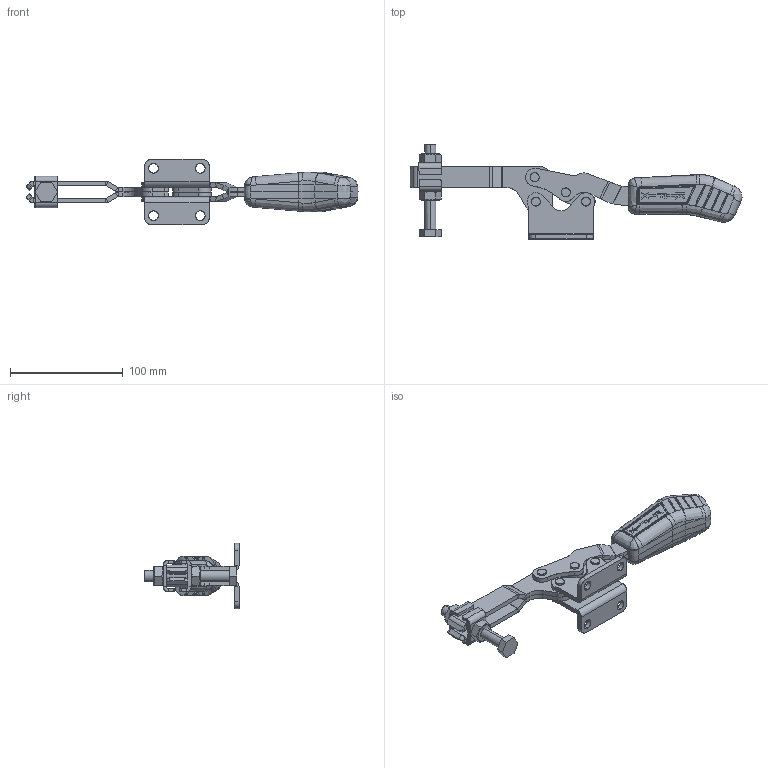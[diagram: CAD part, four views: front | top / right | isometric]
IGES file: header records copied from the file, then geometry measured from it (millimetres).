
Start section: SolidWorks IGES file using analytic representation for surfaces
Global section: file name: C:\Projetos\Grampos\KF-532\KF-532 D\KF-532 D.IGS; native system: SolidWorks 2013; preprocessor: SolidWorks 2013; author: Ricardo; date: 140818.134147; units: millimetre
Bounding box: 294.39 x 83.41 x 57.9 mm (x, y, z)
Surface area: 74490.3 mm2 (no closed solid volume)
Topology: 0 solids, 0 shells, 784 faces, 8480 edges, 8449 vertices
Faces by surface type: bspline 480, revolution 304
